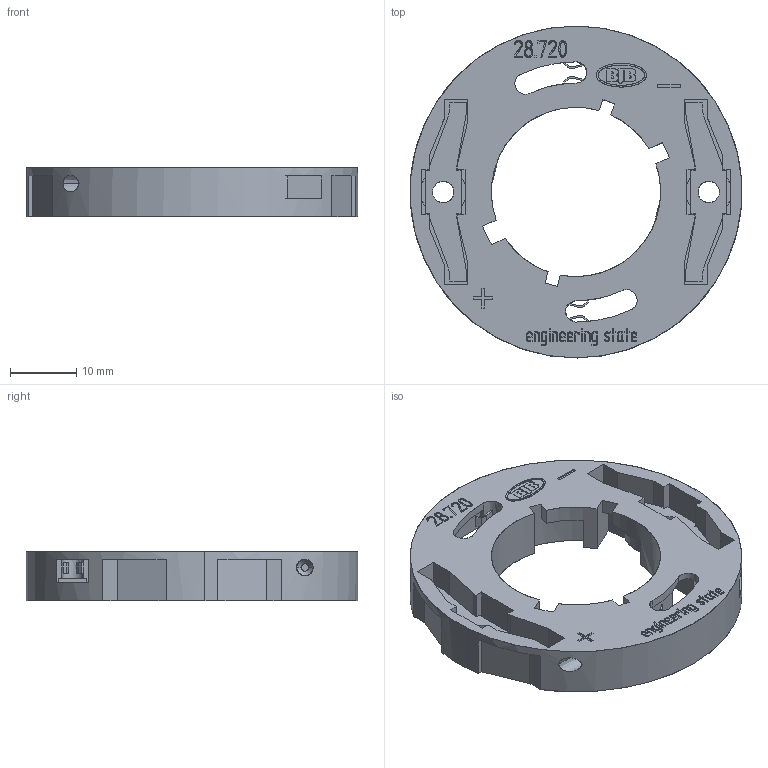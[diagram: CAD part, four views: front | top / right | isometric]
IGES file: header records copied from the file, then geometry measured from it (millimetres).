
Global section: file name: C:\coretechnologie2013\3D-in/01VYU02Y02.igs; native system: CT CoreTechnologie 3D Evolution; preprocessor: 2006; author: assmuth; date: 1140808.080931; units: millimetre
Bounding box: 50 x 50 x 7.45 mm (x, y, z)
Surface area: 8132.3 mm2 (no closed solid volume)
Topology: 0 solids, 0 shells, 613 faces, 3300 edges, 3300 vertices
Faces by surface type: bspline 613
